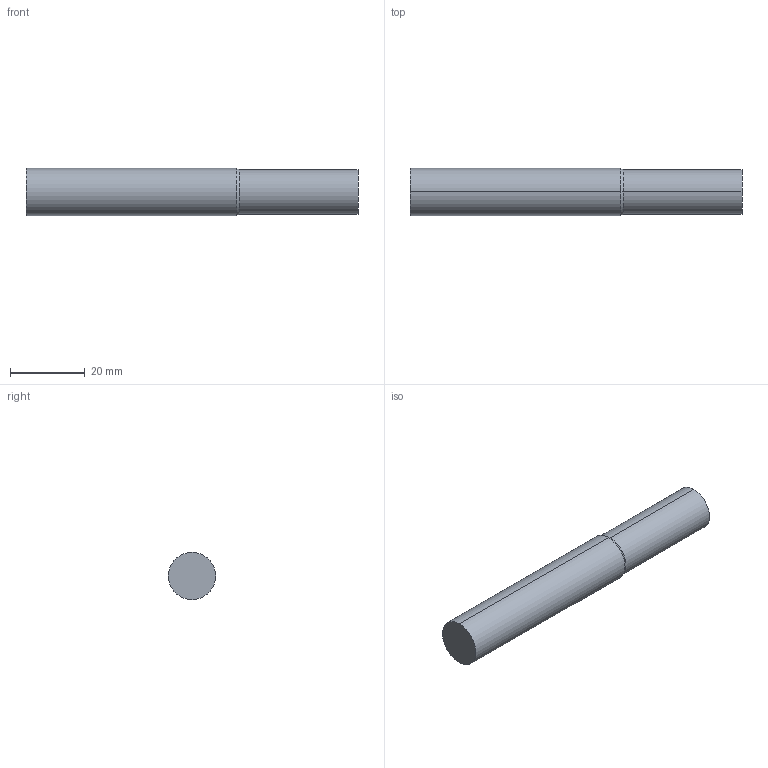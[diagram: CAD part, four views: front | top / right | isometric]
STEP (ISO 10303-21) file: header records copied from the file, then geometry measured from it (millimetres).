
FILE_DESCRIPTION (( 'STEP AP214' ), '1' );
FILE_NAME ('SSIM50469-000.STEP', '2025-05-27T20:11:01', ( '' ), ( '' ), 'SwSTEP 2.0', 'SolidWorks 2023', '' );
FILE_SCHEMA (( 'AUTOMOTIVE_DESIGN' ));
Length unit declared in the file: inch
Products named in the file (3): SSI5 Imperial SHANK ONLY_SSIM50469-000; SSI5 Imperial LOC ONLY_SSIM50469-000; SSIM50469-000
Assembly tree (2 placements, depth 2):
  SSIM50469-000
    SSI5 Imperial LOC ONLY_SSIM50469-000
    SSI5 Imperial SHANK ONLY_SSIM50469-000
Bounding box: 88.9 x 12.7 x 12.7 mm (x, y, z)
Volume: 10773.1 mm3; surface area: 3932.7 mm2
Topology: 2 solids, 2 shells, 10 faces, 16 edges, 10 vertices
Faces by surface type: cylinder 4, plane 4, cone 2
Entity records: 384 total; most frequent: DIRECTION 56, CARTESIAN_POINT 41, ORIENTED_EDGE 32, AXIS2_PLACEMENT_3D 25, EDGE_CURVE 16, EDGE_LOOP 10, CIRCLE 10, ADVANCED_FACE 10
